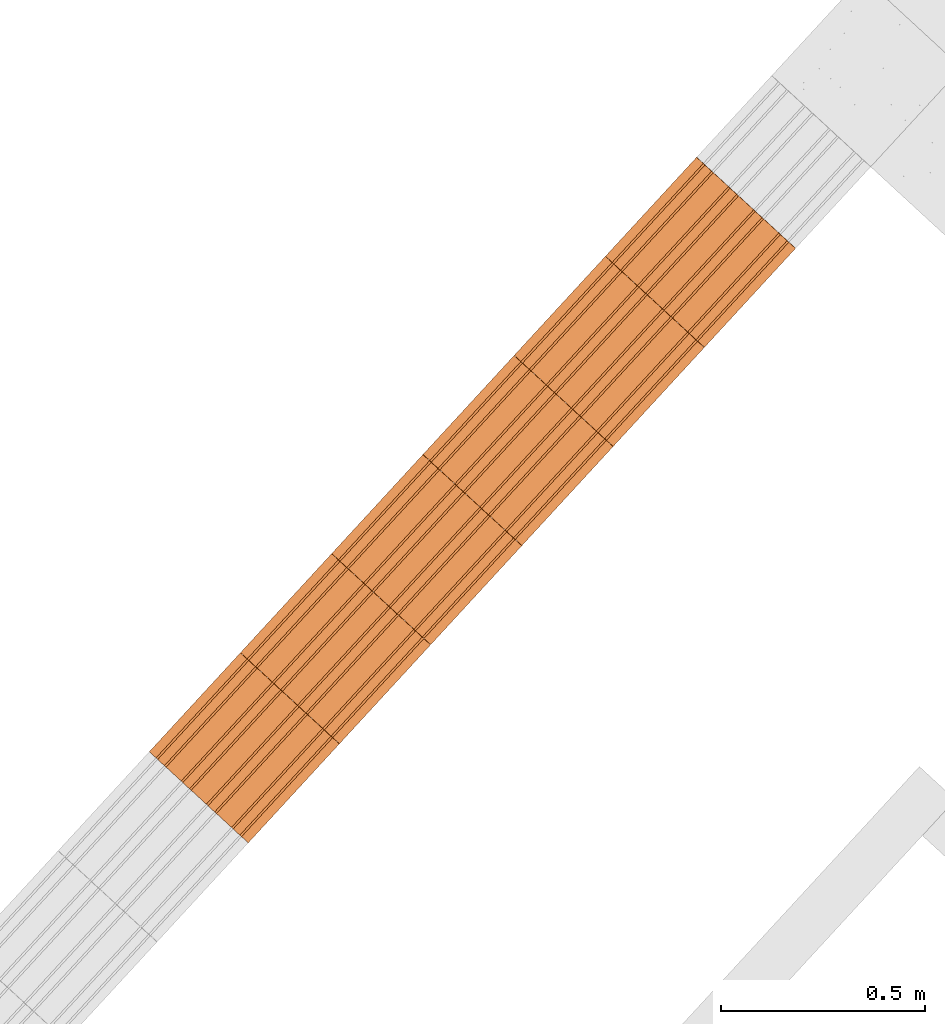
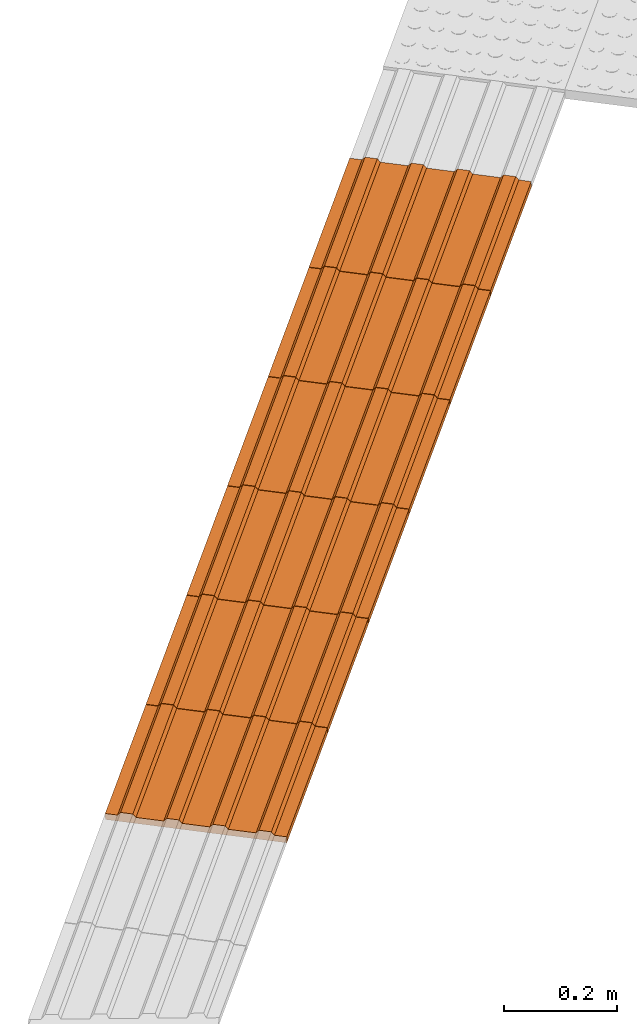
# One storey, part 166 of 237: 6 proxies.
"""IFC2X3 building model written with IfcOpenShell, lengths in millimetres."""

from ifc_helpers import new_model, entity, si_unit, converted_unit, derived_unit, money_unit, direction, frame, origin_with_axes, place, context, subcontext, project, spatial, open_shell, surface_model, source, transform, mapped, type_object, element, save


model = new_model("IFC2X3")

# Units and contexts
model_context = context("Model", 3, precision=0.01, world=origin_with_axes(), true_north=direction((0.0, 1.0)))
body_context = subcontext(model_context, "Body", "Model", "MODEL_VIEW")
ifc_project = project(units=[si_unit("LENGTHUNIT", "METRE", prefix="MILLI"), si_unit("AREAUNIT", "SQUARE_METRE"), si_unit("VOLUMEUNIT", "CUBIC_METRE"), converted_unit("PLANEANGLEUNIT", "DEGREE", entity("IfcPlaneAngleMeasure", 0.0174532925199), si_unit("PLANEANGLEUNIT", "RADIAN"), dimensions=[0, 0, 0, 0, 0, 0, 0]), money_unit("USD"), converted_unit("TIMEUNIT", "Year", entity("IfcTimeMeasure", 31556926.0), si_unit("TIMEUNIT", "SECOND"), dimensions=[0, 0, 1, 0, 0, 0, 0]), si_unit("MASSUNIT", "GRAM", prefix="KILO"), si_unit("THERMODYNAMICTEMPERATUREUNIT", "DEGREE_CELSIUS"), si_unit("LUMINOUSINTENSITYUNIT", "LUMEN"), si_unit("ENERGYUNIT", "JOULE", prefix="MEGA"), derived_unit("THERMALCONDUCTANCEUNIT", [(si_unit("POWERUNIT", "WATT"), 1), (si_unit("LENGTHUNIT", "METRE"), -1), (si_unit("THERMODYNAMICTEMPERATUREUNIT", "KELVIN"), -1)]), derived_unit("SPECIFICHEATCAPACITYUNIT", [(si_unit("ENERGYUNIT", "JOULE"), 1), (si_unit("MASSUNIT", "GRAM", prefix="KILO"), -1), (si_unit("THERMODYNAMICTEMPERATUREUNIT", "KELVIN"), -1)]), derived_unit("MASSDENSITYUNIT", [(si_unit("MASSUNIT", "GRAM", prefix="KILO"), 1), (si_unit("VOLUMEUNIT", "CUBIC_METRE"), -1)])], contexts=[model_context])

# Site, building, storey
site_placement = place(None, origin_with_axes())
site = spatial("IfcSite", under=ifc_project, at=site_placement, Name="Local", CompositionType="ELEMENT")
building_placement = place(site_placement, origin_with_axes())
building = spatial("IfcBuilding", under=site, at=building_placement, Name="Construção", CompositionType="ELEMENT")
storey_placement = place(building_placement, origin_with_axes())
storey = spatial("IfcBuildingStorey", under=building, at=storey_placement, Name="Pavimento Térreo", CompositionType="ELEMENT", Elevation=0.0)

# Proxies
building_element_proxy_type = type_object("IfcBuildingElementProxyType", Name="Piso Direcional 27", PredefinedType="NOTDEFINED")
shared_shape = source(origin_with_axes(), body_context, "Body", "SurfaceModel", [
    surface_model("IfcShellBasedSurfaceModel", [(0.126538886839, -47.258225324, 4.02653266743), (329.963703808, -47.258225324, -6.33901782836), (330.173108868, -41.665004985, 0.32435924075), (0.33594394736, -41.665004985, 10.6899097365)], [open_shell([[[0, 1, 2, 3]]])]),
    surface_model("IfcShellBasedSurfaceModel", [(329.544893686, -153.529411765, -19.6657719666), (329.544893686, 176.470588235, -19.6657719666), (329.963703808, 176.470588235, -6.33901782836), (329.963703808, 154.097706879, -6.33901782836), (330.173108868, 148.50448654, 0.32435924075), (330.173108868, 126.131605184, 0.32435924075), (329.963703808, 120.538384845, -6.33901782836), (329.963703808, 70.1994017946, -6.33901782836), (330.173108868, 64.6061814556, 0.32435924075), (330.173108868, 42.2333000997, 0.32435924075), (329.963703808, 36.6400797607, -6.33901782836), (329.963703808, -13.6989032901, -6.33901782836), (330.173108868, -19.2921236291, 0.32435924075), (330.173108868, -41.665004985, 0.32435924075), (329.963703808, -47.258225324, -6.33901782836), (329.963703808, -97.5972083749, -6.33901782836), (330.173108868, -103.190428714, 0.32435924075), (330.173108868, -125.56331007, 0.32435924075), (329.963703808, -131.156530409, -6.33901782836), (329.963703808, -153.529411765, -6.33901782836)], [open_shell([[[0, 1, 2, 3, 4, 5, 6, 7, 8, 9, 10, 11, 12, 13, 14, 15, 16, 17, 18, 19]]])]),
    surface_model("IfcShellBasedSurfaceModel", [(0.33594394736, -19.2921236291, 10.6899097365), (330.173108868, -19.2921236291, 0.32435924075), (329.963703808, -13.6989032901, -6.33901782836), (0.126538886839, -13.6989032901, 4.02653266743)], [open_shell([[[0, 1, 2, 3]]])]),
    surface_model("IfcShellBasedSurfaceModel", [(0.33594394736, -103.190428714, 10.6899097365), (330.173108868, -103.190428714, 0.32435924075), (329.963703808, -97.5972083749, -6.33901782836), (0.126538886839, -97.5972083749, 4.02653266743)], [open_shell([[[0, 1, 2, 3]]])]),
    surface_model("IfcShellBasedSurfaceModel", [(0.33594394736, 64.6061814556, 10.6899097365), (330.173108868, 64.6061814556, 0.32435924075), (329.963703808, 70.1994017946, -6.33901782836), (0.126538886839, 70.1994017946, 4.02653266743)], [open_shell([[[0, 1, 2, 3]]])]),
    surface_model("IfcShellBasedSurfaceModel", [(0.126538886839, 36.6400797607, 4.02653266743), (329.963703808, 36.6400797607, -6.33901782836), (330.173108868, 42.2333000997, 0.32435924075), (0.33594394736, 42.2333000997, 10.6899097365)], [open_shell([[[0, 1, 2, 3]]])]),
    surface_model("IfcShellBasedSurfaceModel", [(0.126538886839, -131.156530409, 4.02653266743), (329.963703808, -131.156530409, -6.33901782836), (330.173108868, -125.56331007, 0.32435924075), (0.33594394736, -125.56331007, 10.6899097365)], [open_shell([[[0, 1, 2, 3]]])]),
    surface_model("IfcShellBasedSurfaceModel", [(0.126538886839, 176.470588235, 4.02653266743), (0.126538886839, 154.097706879, 4.02653266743), (329.963703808, 154.097706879, -6.33901782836), (329.963703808, 176.470588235, -6.33901782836)], [open_shell([[[0, 1, 2, 3]]])]),
    surface_model("IfcShellBasedSurfaceModel", [(0.126538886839, 120.538384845, 4.02653266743), (329.963703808, 120.538384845, -6.33901782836), (330.173108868, 126.131605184, 0.32435924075), (0.33594394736, 126.131605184, 10.6899097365)], [open_shell([[[0, 1, 2, 3]]])]),
    surface_model("IfcShellBasedSurfaceModel", [(0.33594394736, 148.50448654, 10.6899097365), (330.173108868, 148.50448654, 0.32435924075), (329.963703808, 154.097706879, -6.33901782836), (0.126538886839, 154.097706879, 4.02653266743)], [open_shell([[[0, 1, 2, 3]]])]),
    surface_model("IfcShellBasedSurfaceModel", [(0.126538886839, 36.6400797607, 4.02653266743), (0.126538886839, -13.6989032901, 4.02653266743), (329.963703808, -13.6989032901, -6.33901782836), (329.963703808, 36.6400797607, -6.33901782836)], [open_shell([[[0, 1, 2, 3]]])]),
    surface_model("IfcShellBasedSurfaceModel", [(0.126538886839, 120.538384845, 4.02653266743), (0.126538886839, 70.1994017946, 4.02653266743), (329.963703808, 70.1994017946, -6.33901782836), (329.963703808, 120.538384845, -6.33901782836)], [open_shell([[[0, 1, 2, 3]]])]),
    surface_model("IfcShellBasedSurfaceModel", [(0.33594394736, 148.50448654, 10.6899097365), (0.33594394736, 126.131605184, 10.6899097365), (330.173108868, 126.131605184, 0.32435924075), (330.173108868, 148.50448654, 0.32435924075)], [open_shell([[[0, 1, 2, 3]]])]),
    surface_model("IfcShellBasedSurfaceModel", [(0.126538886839, 120.538384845, 4.02653266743), (0.33594394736, 126.131605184, 10.6899097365), (0.33594394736, 148.50448654, 10.6899097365), (0.126538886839, 154.097706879, 4.02653266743), (0.126538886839, 176.470588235, 4.02653266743), (-0.292271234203, 176.470588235, -9.30022147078), (-0.292271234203, -153.529411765, -9.30022147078), (0.126538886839, -153.529411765, 4.02653266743), (0.126538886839, -131.156530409, 4.02653266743), (0.33594394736, -125.56331007, 10.6899097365), (0.33594394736, -103.190428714, 10.6899097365), (0.126538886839, -97.5972083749, 4.02653266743), (0.126538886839, -47.258225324, 4.02653266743), (0.33594394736, -41.665004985, 10.6899097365), (0.33594394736, -19.2921236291, 10.6899097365), (0.126538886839, -13.6989032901, 4.02653266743), (0.126538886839, 36.6400797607, 4.02653266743), (0.33594394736, 42.2333000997, 10.6899097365), (0.33594394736, 64.6061814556, 10.6899097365), (0.126538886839, 70.1994017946, 4.02653266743)], [open_shell([[[0, 1, 2, 3, 4, 5, 6, 7, 8, 9, 10, 11, 12, 13, 14, 15, 16, 17, 18, 19]]])]),
    surface_model("IfcShellBasedSurfaceModel", [(330.173108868, -41.665004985, 0.32435924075), (330.173108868, -19.2921236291, 0.32435924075), (0.33594394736, -19.2921236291, 10.6899097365), (0.33594394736, -41.665004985, 10.6899097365)], [open_shell([[[0, 1, 2, 3]]])]),
    surface_model("IfcShellBasedSurfaceModel", [(0.126538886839, -47.258225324, 4.02653266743), (0.126538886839, -97.5972083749, 4.02653266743), (329.963703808, -97.5972083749, -6.33901782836), (329.963703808, -47.258225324, -6.33901782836)], [open_shell([[[0, 1, 2, 3]]])]),
    surface_model("IfcShellBasedSurfaceModel", [(330.173108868, 42.2333000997, 0.32435924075), (330.173108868, 64.6061814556, 0.32435924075), (0.33594394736, 64.6061814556, 10.6899097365), (0.33594394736, 42.2333000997, 10.6899097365)], [open_shell([[[0, 1, 2, 3]]])]),
    surface_model("IfcShellBasedSurfaceModel", [(330.173108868, -125.56331007, 0.32435924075), (330.173108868, -103.190428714, 0.32435924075), (0.33594394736, -103.190428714, 10.6899097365), (0.33594394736, -125.56331007, 10.6899097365)], [open_shell([[[0, 1, 2, 3]]])]),
    surface_model("IfcShellBasedSurfaceModel", [(329.544893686, 176.470588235, -19.6657719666), (-0.292271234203, 176.470588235, -9.30022147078), (0.126538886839, 176.470588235, 4.02653266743), (329.963703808, 176.470588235, -6.33901782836)], [open_shell([[[0, 1, 2, 3]]])]),
    surface_model("IfcShellBasedSurfaceModel", [(329.544893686, -153.529411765, -19.6657719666), (-0.292271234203, -153.529411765, -9.30022147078), (-0.292271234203, 176.470588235, -9.30022147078), (329.544893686, 176.470588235, -19.6657719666)], [open_shell([[[0, 1, 2, 3]]])]),
    surface_model("IfcShellBasedSurfaceModel", [(329.963703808, -153.529411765, -6.33901782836), (329.963703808, -131.156530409, -6.33901782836), (0.126538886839, -131.156530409, 4.02653266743), (0.126538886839, -153.529411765, 4.02653266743)], [open_shell([[[0, 1, 2, 3]]])]),
    surface_model("IfcShellBasedSurfaceModel", [(-0.292271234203, -153.529411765, -9.30022147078), (329.544893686, -153.529411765, -19.6657719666), (329.963703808, -153.529411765, -6.33901782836), (0.126538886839, -153.529411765, 4.02653266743)], [open_shell([[[0, 1, 2, 3]]])]),
])
for number, where, z_axis, x_axis, name in (
    (1, (38947.5293719, 26449.3762179, -1788.69728869), (0.0, 0.0, 1.0), (-0.677327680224, -0.735681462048, 0.0), "Objeto-0055"),
    (2, (39171.3428608, 26692.4719005, -1777.84976563), (0.0, 0.0, 1.0), (-0.677327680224, -0.735681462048, 0.0), "Objeto-0055"),
    (3, (38276.0889051, 25720.0891702, -1821.23985786), (0.0, 0.0, 1.0), (-0.677327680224, -0.735681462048, 0.0), "Objeto-0055"),
    (4, (38499.9023941, 25963.1848528, -1810.3923348), (0.0, 0.0, 1.0), (-0.677327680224, -0.735681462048, 0.0), "Objeto-0055"),
    (5, (38052.2754162, 25476.9934877, -1832.08738091), (0.0, 0.0, 1.0), (-0.677327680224, -0.735681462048, 0.0), "Objeto-0055"),
    (6, (38723.715883, 26206.2805354, -1799.54481174), (0.0, 0.0, 1.0), (-0.677327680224, -0.735681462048, 0.0), "Objeto-0055"),
):
    element("IfcBuildingElementProxy", number, at=place(storey_placement, frame(where, z_axis=z_axis, x_axis=x_axis)), inside=storey, type_object=building_element_proxy_type, Name=name, context=body_context, shape_type="MappedRepresentation", body=[
        mapped(shared_shape, transform((0.0, 0.0, 0.0))),
    ])

save(model, "model.ifc")
